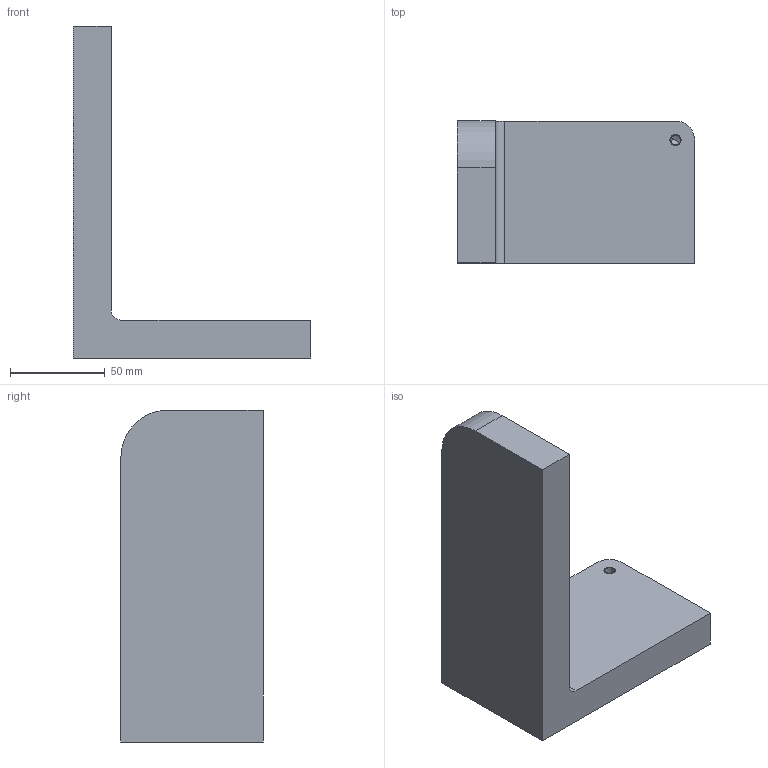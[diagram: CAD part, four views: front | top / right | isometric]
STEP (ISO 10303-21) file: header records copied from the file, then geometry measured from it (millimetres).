
FILE_DESCRIPTION(('CATIA V5 STEP Exchange'),'2;1');
FILE_NAME('C:\_Andres\UNIVERSIDAD\IQS\ASIGNATURAS\DAO\EXF\EXF-16172c\2inicio\Quiroga_Garcia_Ej01_v25.stp','2017-03-05T15:11:10+00:00',('none'),('none'),'CATIA Version 5-6 Release 2014 SP1 HF18','CATIA V5 STEP AP203','none');
FILE_SCHEMA(('CONFIG_CONTROL_DESIGN'));
Length unit declared in the file: millimetre
Products named in the file (1): Quiroga_Garcia_Ej01_v25
Bounding box: 125 x 75 x 175 mm (x, y, z)
Volume: 416977.9 mm3; surface area: 55914.5 mm2
Topology: 1 solids, 2 shells, 17 faces, 43 edges, 27 vertices
Faces by surface type: plane 8, cylinder 7, cone 2
Entity records: 513 total; most frequent: CARTESIAN_POINT 83, ORIENTED_EDGE 78, DIRECTION 69, EDGE_CURVE 41, AXIS2_PLACEMENT_3D 29, VECTOR 27, LINE 27, VERTEX_POINT 27
